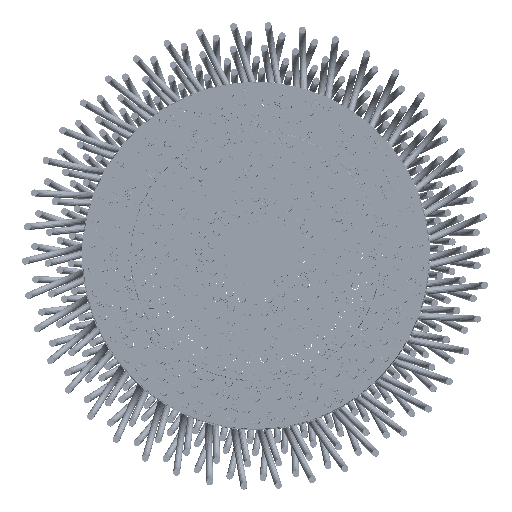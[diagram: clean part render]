
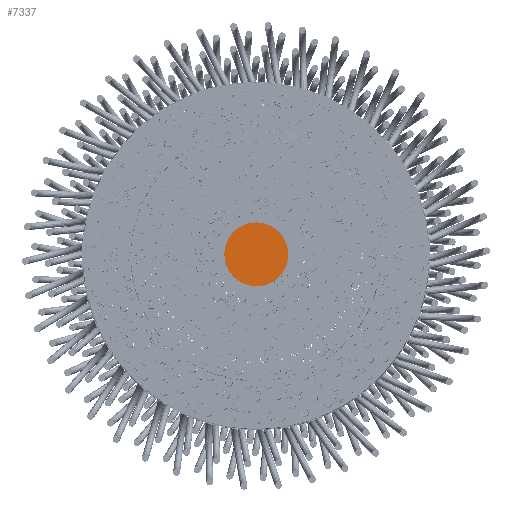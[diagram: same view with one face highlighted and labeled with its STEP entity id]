
A CAD part, top view. The second image highlights one B-rep face of the part: STEP entity #7337.
In plain terms, the highlighted free-form (B-spline) face has degree [1, 1] with [2, 2] control points.
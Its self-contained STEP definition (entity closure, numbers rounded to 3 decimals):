
#7337=ADVANCED_FACE('',(#9592),#101553,.T.);
#9592=FACE_OUTER_BOUND('',#13658,.T.);
#13658=EDGE_LOOP('',(#28520,#28521));
#28520=ORIENTED_EDGE('',*,*,#83494,.T.);
#28521=ORIENTED_EDGE('',*,*,#83493,.F.);
#38633=(
BOUNDED_CURVE()
B_SPLINE_CURVE(2,(#218258,#218259,#218260,#218261,#218262),
 .UNSPECIFIED.,.F.,.F.)
B_SPLINE_CURVE_WITH_KNOTS((3,2,3),(0.,146.084,292.168),
 .UNSPECIFIED.)
CURVE()
GEOMETRIC_REPRESENTATION_ITEM()
RATIONAL_B_SPLINE_CURVE((1.,0.707,1.,0.707,1.))
REPRESENTATION_ITEM('')
);
#38634=(
BOUNDED_CURVE()
B_SPLINE_CURVE(2,(#218265,#218266,#218267,#218268,#218269),
 .UNSPECIFIED.,.F.,.F.)
B_SPLINE_CURVE_WITH_KNOTS((3,2,3),(-584.336,-438.252,
-292.168),.UNSPECIFIED.)
CURVE()
GEOMETRIC_REPRESENTATION_ITEM()
RATIONAL_B_SPLINE_CURVE((1.,0.707,1.,0.707,1.))
REPRESENTATION_ITEM('')
);
#38635=(
BOUNDED_CURVE()
B_SPLINE_CURVE(2,(#218270,#218271,#218272,#218273,#218274),
 .UNSPECIFIED.,.F.,.F.)
B_SPLINE_CURVE_WITH_KNOTS((3,2,3),(-584.336,-438.252,
-292.168),.UNSPECIFIED.)
CURVE()
GEOMETRIC_REPRESENTATION_ITEM()
RATIONAL_B_SPLINE_CURVE((1.,0.707,1.,0.707,1.))
REPRESENTATION_ITEM('')
);
#38636=(
BOUNDED_CURVE()
B_SPLINE_CURVE(2,(#218275,#218276,#218277,#218278,#218279),
 .UNSPECIFIED.,.F.,.F.)
B_SPLINE_CURVE_WITH_KNOTS((3,2,3),(0.,146.084,292.168),
 .UNSPECIFIED.)
CURVE()
GEOMETRIC_REPRESENTATION_ITEM()
RATIONAL_B_SPLINE_CURVE((1.,0.707,1.,0.707,1.))
REPRESENTATION_ITEM('')
);
#53510=PCURVE('',#103528,#68465);
#53511=PCURVE('',#101553,#68466);
#53512=PCURVE('',#101553,#68467);
#53515=PCURVE('',#103529,#68470);
#68465=DEFINITIONAL_REPRESENTATION('',(#95816),#219012);
#68466=DEFINITIONAL_REPRESENTATION('',(#38635),#219012);
#68467=DEFINITIONAL_REPRESENTATION('',(#38636),#219012);
#68470=DEFINITIONAL_REPRESENTATION('',(#95817),#219012);
#76011=SURFACE_CURVE('',#38633,(#53510,#53512),.PCURVE_S1.);
#76012=SURFACE_CURVE('',#38634,(#53511,#53515),.PCURVE_S1.);
#83493=EDGE_CURVE('',#101239,#101241,#76011,.T.);
#83494=EDGE_CURVE('',#101239,#101241,#76012,.T.);
#95816=B_SPLINE_CURVE_WITH_KNOTS('',1,(#218263,#218264),.UNSPECIFIED.,.F.,
 .F.,(2,2),(0.,292.168),.UNSPECIFIED.);
#95817=B_SPLINE_CURVE_WITH_KNOTS('',1,(#218295,#218296),.UNSPECIFIED.,.F.,
 .F.,(2,2),(-584.336,-292.168),.UNSPECIFIED.);
#101239=VERTEX_POINT('',#218239);
#101241=VERTEX_POINT('',#218241);
#101553=B_SPLINE_SURFACE_WITH_KNOTS('',1,1,((#218221,#218222),(#218223,
#218224)),.UNSPECIFIED.,.F.,.F.,.F.,(2,2),(2,2),(-116.25,116.25),(-116.25,
116.25),.UNSPECIFIED.);
#103528=(
BOUNDED_SURFACE()
B_SPLINE_SURFACE(2,1,((#218211,#218212),(#218213,#218214),(#218215,#218216),
(#218217,#218218),(#218219,#218220)),.UNSPECIFIED.,.F.,.F.,.F.)
B_SPLINE_SURFACE_WITH_KNOTS((3,2,3),(2,2),(0.,146.084,292.168),
(0.,4.),.UNSPECIFIED.)
GEOMETRIC_REPRESENTATION_ITEM()
RATIONAL_B_SPLINE_SURFACE(((1.,1.),(0.707,0.707),
(1.,1.),(0.707,0.707),(1.,1.)))
REPRESENTATION_ITEM('')
SURFACE()
);
#103529=(
BOUNDED_SURFACE()
B_SPLINE_SURFACE(2,1,((#218229,#218230),(#218231,#218232),(#218233,#218234),
(#218235,#218236),(#218237,#218238)),.UNSPECIFIED.,.F.,.F.,.F.)
B_SPLINE_SURFACE_WITH_KNOTS((3,2,3),(2,2),(292.168,438.252,
584.336),(0.,4.),.UNSPECIFIED.)
GEOMETRIC_REPRESENTATION_ITEM()
RATIONAL_B_SPLINE_SURFACE(((1.,1.),(0.707,0.707),
(1.,1.),(0.707,0.707),(1.,1.)))
REPRESENTATION_ITEM('')
SURFACE()
);
#218211=CARTESIAN_POINT('',(-57.276,-72.932,2210.03));
#218212=CARTESIAN_POINT('',(-57.276,-72.932,2206.03));
#218213=CARTESIAN_POINT('',(-130.587,-15.709,2210.03));
#218214=CARTESIAN_POINT('',(-130.587,-15.709,2206.03));
#218215=CARTESIAN_POINT('',(-73.364,57.602,2210.016));
#218216=CARTESIAN_POINT('',(-73.364,57.602,2206.016));
#218217=CARTESIAN_POINT('',(-16.141,130.913,2210.003));
#218218=CARTESIAN_POINT('',(-16.141,130.913,2206.003));
#218219=CARTESIAN_POINT('',(57.17,73.69,2210.003));
#218220=CARTESIAN_POINT('',(57.17,73.69,2206.003));
#218221=CARTESIAN_POINT('',(163.115,20.489,2209.999));
#218222=CARTESIAN_POINT('',(20.057,-162.789,2210.034));
#218223=CARTESIAN_POINT('',(-20.162,163.547,2209.999));
#218224=CARTESIAN_POINT('',(-163.22,-19.73,2210.034));
#218229=CARTESIAN_POINT('',(57.17,73.69,2210.003));
#218230=CARTESIAN_POINT('',(57.17,73.69,2206.003));
#218231=CARTESIAN_POINT('',(130.482,16.467,2210.003));
#218232=CARTESIAN_POINT('',(130.481,16.467,2206.003));
#218233=CARTESIAN_POINT('',(73.258,-56.844,2210.016));
#218234=CARTESIAN_POINT('',(73.258,-56.844,2206.016));
#218235=CARTESIAN_POINT('',(16.035,-130.155,2210.03));
#218236=CARTESIAN_POINT('',(16.035,-130.155,2206.03));
#218237=CARTESIAN_POINT('',(-57.276,-72.932,2210.03));
#218238=CARTESIAN_POINT('',(-57.276,-72.932,2206.03));
#218239=CARTESIAN_POINT('',(-57.276,-72.932,2210.03));
#218241=CARTESIAN_POINT('',(57.17,73.69,2210.003));
#218258=CARTESIAN_POINT('',(-57.276,-72.932,2210.03));
#218259=CARTESIAN_POINT('',(-130.587,-15.709,2210.03));
#218260=CARTESIAN_POINT('',(-73.364,57.602,2210.016));
#218261=CARTESIAN_POINT('',(-16.141,130.913,2210.003));
#218262=CARTESIAN_POINT('',(57.17,73.69,2210.003));
#218263=CARTESIAN_POINT('',(0.,0.));
#218264=CARTESIAN_POINT('',(292.168,0.));
#218265=CARTESIAN_POINT('',(-57.276,-72.932,2210.03));
#218266=CARTESIAN_POINT('',(16.035,-130.155,2210.03));
#218267=CARTESIAN_POINT('',(73.258,-56.844,2210.016));
#218268=CARTESIAN_POINT('',(130.482,16.467,2210.003));
#218269=CARTESIAN_POINT('',(57.17,73.69,2210.003));
#218270=CARTESIAN_POINT('',(0.,93.));
#218271=CARTESIAN_POINT('',(-93.,93.));
#218272=CARTESIAN_POINT('',(-93.,0.));
#218273=CARTESIAN_POINT('',(-93.,-93.));
#218274=CARTESIAN_POINT('',(0.,-93.));
#218275=CARTESIAN_POINT('',(0.,93.));
#218276=CARTESIAN_POINT('',(93.,93.));
#218277=CARTESIAN_POINT('',(93.,0.));
#218278=CARTESIAN_POINT('',(93.,-93.));
#218279=CARTESIAN_POINT('',(0.,-93.));
#218295=CARTESIAN_POINT('',(584.336,0.));
#218296=CARTESIAN_POINT('',(292.168,0.));
#219012=(
GEOMETRIC_REPRESENTATION_CONTEXT(2)
PARAMETRIC_REPRESENTATION_CONTEXT()
REPRESENTATION_CONTEXT('pspace','')
);
